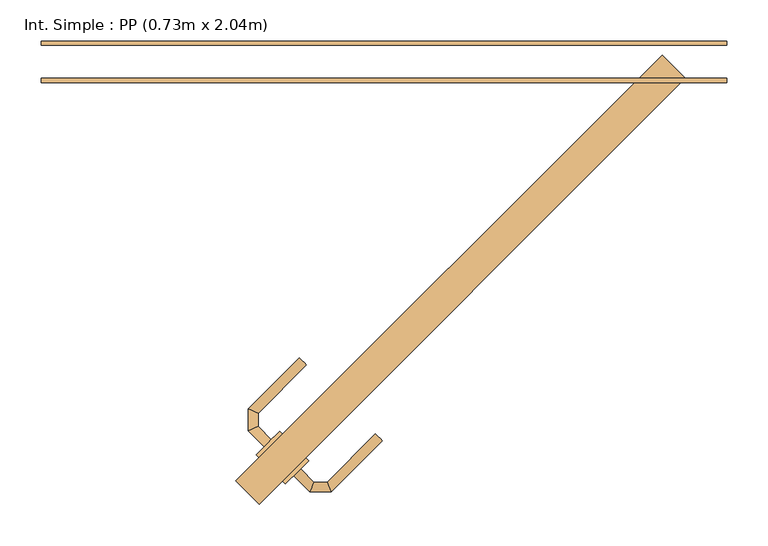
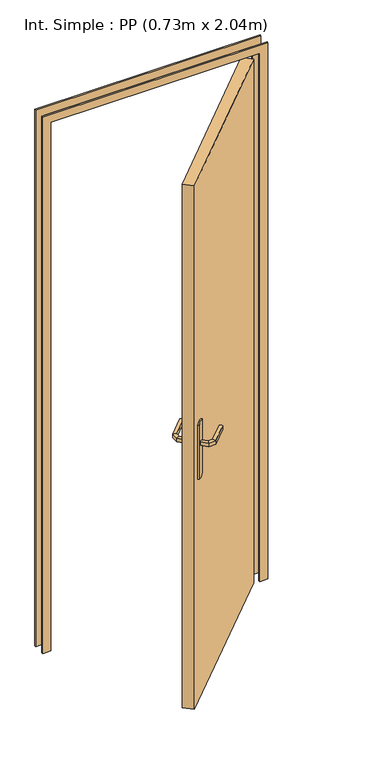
"""IFC4 building model written with IfcOpenShell, lengths in millimetres: door geometry, Int. Simple : PP (0.73m x 2.04m)."""

from ifc_helpers import new_model, si_unit, point, frame, frame_2d, origin, origin_with_axes, place, context, project, spatial, polyline, circle_curve, ellipse_curve, trimmed, segment, composite_curve, outline, extrude, source, transform, mapped, element, save
from ifc_brep_helpers import plane_surface, cylinder_surface, advanced_brep


def int_simple_pp_0_73m_x_2_04m_179cc70a(model_context):
    return source(origin(), model_context, "Body", "SolidModel", [
        extrude(outline(composite_curve([segment(trimmed(circle_curve(frame_2d((0.0, -40.0)), 40.0), [point((-34.6410162, -60.0))], [point((-34.6410162, -20.0))], False, "CARTESIAN"), True, "CONTINUOUS"), segment(polyline([(-34.6410162, -20.0), (175.3589838, -20.0)]), True, "CONTINUOUS"), segment(trimmed(circle_curve(frame_2d((140.7179676, -40.0)), 40.0), [point((175.3589838, -20.0))], [point((175.3589838, -60.0))], False, "CARTESIAN"), True, "CONTINUOUS"), segment(polyline([(175.3589838, -60.0), (-34.6410162, -60.0)]), True, "CONTINUOUS")], self_intersect=False)), frame((-111.9417382, -469.0128061, 904.6410162), z_axis=(-0.7071067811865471, 0.707106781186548, 0.0), x_axis=(0.0, 0.0, 1.0)), (0.0, 0.0, 1.0), 5.0),
        extrude(outline(composite_curve([segment(trimmed(circle_curve(frame_2d((0.0, -39.9999999)), 40.0), [point((34.6410162, -20.0))], [point((34.6410162, -60.0))], False, "CARTESIAN"), True, "CONTINUOUS"), segment(polyline([(34.6410162, -60.0), (-175.3589838, -60.0)]), True, "CONTINUOUS"), segment(trimmed(circle_curve(frame_2d((-140.7179676, -39.9999999)), 40.0), [point((-175.3589838, -60.0))], [point((-175.3589838, -20.0))], False, "CARTESIAN"), True, "CONTINUOUS"), segment(polyline([(-175.3589838, -20.0), (34.6410162, -20.0)]), True, "CONTINUOUS")], self_intersect=False)), frame((-143.7615434, -437.1930009, 1045.3589838), z_axis=(-0.7071067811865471, 0.707106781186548, 0.0), x_axis=(0.0, 0.0, 1.0)), (0.0, 0.0, 1.0), 5.0),
        advanced_brep(
        [(-144.4686502, -501.539718, 1007.0), (-135.9833688, -493.0544366, 1007.0), (-135.9833688, -493.0544366, 993.0), (-144.4686502, -501.539718, 993.0), (-124.9164754, -521.0918927, 1007.0), (-119.9459127, -509.0918927, 1007.0), (-119.9459127, -509.0918927, 993.0), (-124.9164754, -521.0918927, 993.0), (-98.9271758, -521.0918927, 1007.0), (-103.8977386, -509.0918927, 1007.0), (-103.8977386, -509.0918927, 993.0), (-98.9271758, -521.0918927, 993.0), (-36.9553259, -459.1200428, 1007.0), (-36.9553259, -459.1200428, 993.0), (-45.4406073, -450.6347615, 993.0), (-45.4406073, -450.6347615, 1007.0)],
        [
            (0, 1, circle_curve(frame((-140.2260095, -497.2970773, 986.9542278), z_axis=(-0.7071067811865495, 0.7071067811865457, 0.0), x_axis=(0.7071067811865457, 0.7071067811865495, 0.0)), 20.9244589)),
            (1, 2),
            (2, 3, circle_curve(frame((-140.2260095, -497.2970773, 1013.0457722), z_axis=(-0.7071067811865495, 0.7071067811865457, 0.0), x_axis=(0.7071067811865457, 0.7071067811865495, 0.0)), 20.9244589)),
            (3, 0),
            (0, 4),
            (4, 5, ellipse_curve(frame((-122.4311941, -515.0918927, 986.9542278), z_axis=(-0.9238795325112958, 0.38268343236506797, 0.0), x_axis=(0.3826834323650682, 0.9238795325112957, 0.0)), 22.6484711, 20.9244589)),
            (5, 1),
            (5, 6),
            (6, 2),
            (6, 7, ellipse_curve(frame((-122.4311941, -515.0918927, 1013.0457722), z_axis=(-0.9238795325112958, 0.38268343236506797, 0.0), x_axis=(0.3826834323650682, 0.9238795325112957, 0.0)), 22.6484711, 20.9244589)),
            (7, 3),
            (7, 4),
            (4, 8),
            (8, 9, ellipse_curve(frame((-101.4124572, -515.0918927, 986.9542278), z_axis=(-0.9238795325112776, -0.38268343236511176, 0.0), x_axis=(-0.3826834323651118, 0.9238795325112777, 0.0)), 22.6484711, 20.9244589)),
            (9, 5),
            (9, 10),
            (10, 6),
            (10, 11, ellipse_curve(frame((-101.4124572, -515.0918927, 1013.0457722), z_axis=(-0.9238795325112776, -0.38268343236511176, 0.0), x_axis=(-0.3826834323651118, 0.9238795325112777, 0.0)), 22.6484711, 20.9244589)),
            (11, 7),
            (11, 8),
            (12, 13),
            (13, 14, circle_curve(frame((-41.1979666, -454.8774021, 1013.0457722), z_axis=(0.7071067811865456, 0.7071067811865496, 0.0), x_axis=(-0.7071067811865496, 0.7071067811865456, 0.0)), 20.9244589)),
            (14, 15),
            (15, 12, circle_curve(frame((-41.1979666, -454.8774021, 986.9542278), z_axis=(0.7071067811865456, 0.7071067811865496, 0.0), x_axis=(-0.7071067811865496, 0.7071067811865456, 0.0)), 20.9244589)),
            (8, 12),
            (15, 9),
            (14, 10),
            (13, 11),
        ],
        [
            plane_surface(frame((-146.7452119, -503.8162797, 1000.0), z_axis=(-0.7071067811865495, 0.7071067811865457, 0.0), x_axis=(0.0, 0.0, -1.0))),
            cylinder_surface(frame((-140.2260095, -497.2970773, 986.9542278), z_axis=(-0.7071067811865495, 0.7071067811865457, 0.0), x_axis=(0.7071067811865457, 0.7071067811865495, 0.0)), 20.9244589),
            plane_surface(frame((-135.9833688, -493.0544366, 1007.0), z_axis=(0.7071067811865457, 0.7071067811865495, 0.0), x_axis=(0.7071067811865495, -0.7071067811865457, 0.0))),
            cylinder_surface(frame((-140.2260095, -497.2970773, 1013.0457722), z_axis=(-0.7071067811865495, 0.7071067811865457, 0.0), x_axis=(0.7071067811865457, 0.7071067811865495, 0.0)), 20.9244589),
            plane_surface(frame((-144.4686502, -501.539718, 993.0), z_axis=(-0.7071067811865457, -0.7071067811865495, 0.0), x_axis=(0.7071067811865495, -0.7071067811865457, 0.0))),
            cylinder_surface(frame((-122.4311941, -515.0918927, 986.9542278), z_axis=(-1.0, 0.0, 0.0), x_axis=(0.0, 1.0, 0.0)), 20.9244589),
            plane_surface(frame((-119.9459127, -509.0918927, 1007.0), z_axis=(0.0, 1.0, 0.0), x_axis=(1.0, 0.0, 0.0))),
            cylinder_surface(frame((-122.4311941, -515.0918927, 1013.0457722), z_axis=(-1.0, 0.0, 0.0), x_axis=(0.0, 1.0, 0.0)), 20.9244589),
            plane_surface(frame((-124.9164754, -521.0918927, 993.0), z_axis=(0.0, -1.0, 0.0), x_axis=(1.0, 0.0, 0.0))),
            plane_surface(frame((-41.1979666, -454.8774021, 990.7804555), z_axis=(0.7071067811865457, 0.7071067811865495, 0.0), x_axis=(-0.7071067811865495, 0.7071067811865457, 0.0))),
            cylinder_surface(frame((-101.4124572, -515.0918927, 986.9542278), z_axis=(-0.7071067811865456, -0.7071067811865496, 0.0), x_axis=(-0.7071067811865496, 0.7071067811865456, 0.0)), 20.9244589),
            plane_surface(frame((-103.8977386, -509.0918927, 1007.0), z_axis=(-0.7071067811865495, 0.7071067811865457, 0.0), x_axis=(0.7071067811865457, 0.7071067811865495, 0.0))),
            cylinder_surface(frame((-101.4124572, -515.0918927, 1013.0457722), z_axis=(-0.7071067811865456, -0.7071067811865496, 0.0), x_axis=(-0.7071067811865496, 0.7071067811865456, 0.0)), 20.9244589),
            plane_surface(frame((-98.9271758, -521.0918927, 993.0), z_axis=(0.7071067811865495, -0.7071067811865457, 0.0), x_axis=(0.7071067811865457, 0.7071067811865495, 0.0))),
        ],
        [
            (0, [[1, 2, 3, 4]]),
            (1, [[-1, 5, 6, 7]]),
            (2, [[-2, -7, 8, 9]]),
            (3, [[-3, -9, 10, 11]]),
            (4, [[-4, -11, 12, -5]]),
            (5, [[-6, 13, 14, 15]]),
            (6, [[-8, -15, 16, 17]]),
            (7, [[-10, -17, 18, 19]]),
            (8, [[-12, -19, 20, -13]]),
            (9, [[21, 22, 23, 24]]),
            (10, [[-14, 25, -24, 26]]),
            (11, [[-16, -26, -23, 27]]),
            (12, [[-18, -27, -22, 28]]),
            (13, [[-20, -28, -21, -25]]),
        ],
    ),
        advanced_brep(
        [(-171.3387079, -457.6990976, 993.0), (-171.3387079, -457.6990976, 1007.0), (-179.8239892, -466.1843789, 1007.0), (-179.8239892, -466.1843789, 993.0), (-187.2381484, -441.799657, 993.0), (-187.2381484, -441.799657, 1007.0), (-199.2381484, -446.7702197, 1007.0), (-199.2381484, -446.7702197, 993.0), (-187.2381484, -425.5570163, 993.0), (-187.2381484, -425.5570163, 1007.0), (-199.2381484, -420.5864535, 1007.0), (-199.2381484, -420.5864535, 993.0), (-128.8590574, -367.1779253, 993.0), (-137.3443388, -358.6926439, 993.0), (-137.3443388, -358.6926439, 1007.0), (-128.8590574, -367.1779253, 1007.0)],
        [
            (0, 1),
            (1, 2, circle_curve(frame((-175.5813485, -461.9417382, 986.9542278), z_axis=(0.7071067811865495, -0.7071067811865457, 0.0), x_axis=(-0.7071067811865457, -0.7071067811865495, 0.0)), 20.9244589)),
            (2, 3),
            (3, 0, circle_curve(frame((-175.5813485, -461.9417382, 1013.0457722), z_axis=(0.7071067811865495, -0.7071067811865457, 0.0), x_axis=(-0.7071067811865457, -0.7071067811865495, 0.0)), 20.9244589)),
            (0, 4),
            (4, 5),
            (5, 1),
            (5, 6, ellipse_curve(frame((-193.2381484, -444.2849383, 986.9542278), z_axis=(0.3826834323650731, -0.9238795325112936, 0.0), x_axis=(0.923879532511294, 0.38268343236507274, 0.0)), 22.6484711, 20.9244589)),
            (6, 2),
            (6, 7),
            (7, 3),
            (7, 4, ellipse_curve(frame((-193.2381484, -444.2849383, 1013.0457722), z_axis=(0.3826834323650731, -0.9238795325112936, 0.0), x_axis=(0.923879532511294, 0.38268343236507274, 0.0)), 22.6484711, 20.9244589)),
            (4, 8),
            (8, 9),
            (9, 5),
            (9, 10, ellipse_curve(frame((-193.2381484, -423.0717349, 986.9542278), z_axis=(-0.3826834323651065, -0.9238795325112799, 0.0), x_axis=(0.92387953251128, -0.3826834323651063, 0.0)), 22.6484711, 20.9244589)),
            (10, 6),
            (10, 11),
            (11, 7),
            (11, 8, ellipse_curve(frame((-193.2381484, -423.0717349, 1013.0457722), z_axis=(-0.3826834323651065, -0.9238795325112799, 0.0), x_axis=(0.92387953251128, -0.3826834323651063, 0.0)), 22.6484711, 20.9244589)),
            (12, 13, circle_curve(frame((-133.1016981, -362.9352846, 1013.0457722), z_axis=(0.7071067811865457, 0.7071067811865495, 0.0), x_axis=(-0.7071067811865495, 0.7071067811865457, 0.0)), 20.9244589)),
            (13, 14),
            (14, 15, circle_curve(frame((-133.1016981, -362.9352846, 986.9542278), z_axis=(0.7071067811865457, 0.7071067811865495, 0.0), x_axis=(-0.7071067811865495, 0.7071067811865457, 0.0)), 20.9244589)),
            (15, 12),
            (8, 12),
            (15, 9),
            (14, 10),
            (13, 11),
        ],
        [
            plane_surface(frame((-182.100551, -468.4609406, 1000.0), z_axis=(0.7071067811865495, -0.7071067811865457, 0.0), x_axis=(0.0, 0.0, 1.0))),
            plane_surface(frame((-171.3387079, -457.6990976, 993.0), z_axis=(0.7071067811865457, 0.7071067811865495, 0.0), x_axis=(-0.7071067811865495, 0.7071067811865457, 0.0))),
            cylinder_surface(frame((-175.5813485, -461.9417382, 986.9542278), z_axis=(0.7071067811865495, -0.7071067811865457, 0.0), x_axis=(-0.7071067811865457, -0.7071067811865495, 0.0)), 20.9244589),
            plane_surface(frame((-179.8239892, -466.1843789, 1007.0), z_axis=(-0.7071067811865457, -0.7071067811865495, 0.0), x_axis=(-0.7071067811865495, 0.7071067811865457, 0.0))),
            cylinder_surface(frame((-175.5813485, -461.9417382, 1013.0457722), z_axis=(0.7071067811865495, -0.7071067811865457, 0.0), x_axis=(-0.7071067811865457, -0.7071067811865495, 0.0)), 20.9244589),
            plane_surface(frame((-187.2381484, -441.799657, 993.0), z_axis=(1.0, 0.0, 0.0), x_axis=(0.0, 1.0, 0.0))),
            cylinder_surface(frame((-193.2381484, -444.2849383, 986.9542278), z_axis=(0.0, -1.0, 0.0), x_axis=(-1.0, 0.0, 0.0)), 20.9244589),
            plane_surface(frame((-199.2381484, -446.7702197, 1007.0), z_axis=(-1.0, 0.0, 0.0), x_axis=(0.0, 1.0, 0.0))),
            cylinder_surface(frame((-193.2381484, -444.2849383, 1013.0457722), z_axis=(0.0, -1.0, 0.0), x_axis=(-1.0, 0.0, 0.0)), 20.9244589),
            plane_surface(frame((-133.1016981, -362.9352846, 990.7804555), z_axis=(0.7071067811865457, 0.7071067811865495, 0.0), x_axis=(-0.7071067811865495, 0.7071067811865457, 0.0))),
            plane_surface(frame((-187.2381484, -425.5570163, 993.0), z_axis=(0.7071067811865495, -0.7071067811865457, 0.0), x_axis=(0.7071067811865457, 0.7071067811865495, 0.0))),
            cylinder_surface(frame((-193.2381484, -423.0717349, 986.9542278), z_axis=(-0.7071067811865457, -0.7071067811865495, 0.0), x_axis=(-0.7071067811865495, 0.7071067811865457, 0.0)), 20.9244589),
            plane_surface(frame((-199.2381484, -420.5864535, 1007.0), z_axis=(-0.7071067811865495, 0.7071067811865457, 0.0), x_axis=(0.7071067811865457, 0.7071067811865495, 0.0))),
            cylinder_surface(frame((-193.2381484, -423.0717349, 1013.0457722), z_axis=(-0.7071067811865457, -0.7071067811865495, 0.0), x_axis=(-0.7071067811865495, 0.7071067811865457, 0.0)), 20.9244589),
        ],
        [
            (0, [[1, 2, 3, 4]]),
            (1, [[-1, 5, 6, 7]]),
            (2, [[-2, -7, 8, 9]]),
            (3, [[-3, -9, 10, 11]]),
            (4, [[-4, -11, 12, -5]]),
            (5, [[-6, 13, 14, 15]]),
            (6, [[-8, -15, 16, 17]]),
            (7, [[-10, -17, 18, 19]]),
            (8, [[-12, -19, 20, -13]]),
            (9, [[21, 22, 23, 24]]),
            (10, [[-14, 25, -24, 26]]),
            (11, [[-16, -26, -23, 27]]),
            (12, [[-18, -27, -22, 28]]),
            (13, [[-20, -28, -21, -25]]),
        ],
    ),
        extrude(outline(polyline([(-214.4722215, -507.903679), (301.7157288, 8.2842712), (330.0, -20.0), (-186.1879503, -536.1879503), (-214.4722215, -507.903679)])), origin_with_axes(), (0.0, 0.0, 1.0), 2040.0),
        extrude(outline(polyline([(0.0, -450.0), (0.0, -420.0), (2060.0, -420.0), (2060.0, 350.0), (0.0, 350.0), (0.0, 380.0), (2090.0, 380.0), (2090.0, -450.0), (0.0, -450.0)])), frame((0.0, -25.0, 0.0), z_axis=(0.0, 1.0, 0.0), x_axis=(0.0, 0.0, 1.0)), (0.0, 0.0, 1.0), 5.0),
        extrude(outline(polyline([(0.0, -450.0), (0.0, -420.0), (2060.0, -420.0), (2060.0, 350.0), (0.0, 350.0), (0.0, 380.0), (2090.0, 380.0), (2090.0, -450.0), (0.0, -450.0)])), frame((0.0, 20.0, 0.0), z_axis=(0.0, 1.0, 0.0), x_axis=(0.0, 0.0, 1.0)), (0.0, 0.0, 1.0), 5.0),
    ])


if __name__ == "__main__":
    model = new_model("IFC4")
    model_context = context("Model", 3, world=origin())
    ifc_project = project(units=[si_unit("LENGTHUNIT", "METRE", prefix="MILLI")], contexts=[model_context])
    site = spatial("IfcSite", under=ifc_project)
    building = spatial("IfcBuilding", under=site)
    placement = place(None, origin())
    int_simple_pp_0_73m_x_2_04m_shape = int_simple_pp_0_73m_x_2_04m_179cc70a(model_context)
    element("IfcDoor", 1, ObjectType="Int. Simple : PP (0.73m x 2.04m)", at=placement, inside=building, context=model_context, shape_type="MappedRepresentation", body=[
        mapped(int_simple_pp_0_73m_x_2_04m_shape, transform((0.0, 0.0, 0.0), x_axis=(1.0, 0.0, 0.0), y_axis=(0.0, 1.0, 0.0), z_axis=(0.0, 0.0, 1.0))),
    ])
    save(model, "model.ifc")
